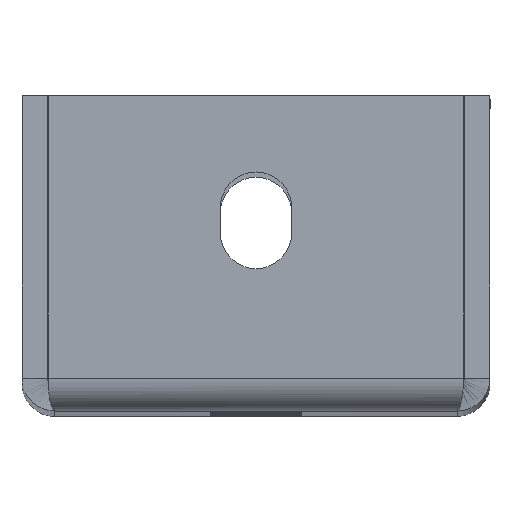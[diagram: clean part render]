
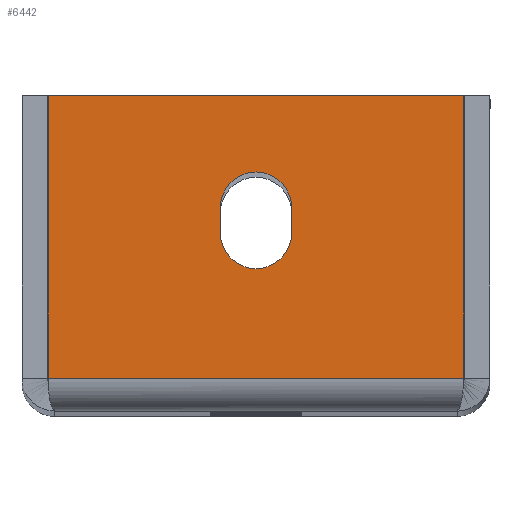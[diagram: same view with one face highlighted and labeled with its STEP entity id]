
A CAD part, top view. The second image highlights one B-rep face of the part: STEP entity #6442.
In plain terms, the highlighted planar face has unit normal (0, 0, 1).
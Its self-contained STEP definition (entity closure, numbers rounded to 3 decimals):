
#63 = DIRECTION ( 'NONE',  ( 0., 1., 0. ) ) ;
#112 = VERTEX_POINT ( 'NONE', #7981 ) ;
#202 = LINE ( 'NONE', #2239, #5104 ) ;
#211 = CARTESIAN_POINT ( 'NONE',  ( 24., 15., 2.5 ) ) ;
#486 = EDGE_CURVE ( 'NONE', #4706, #6631, #6182, .T. ) ;
#520 = DIRECTION ( 'NONE',  ( 0., 0., 1. ) ) ;
#642 = CIRCLE ( 'NONE', #741, 3.5 ) ;
#659 = FACE_OUTER_BOUND ( 'NONE', #5116, .T. ) ;
#741 = AXIS2_PLACEMENT_3D ( 'NONE', #4329, #1246, #1783 ) ;
#862 = VERTEX_POINT ( 'NONE', #7411 ) ;
#868 = CARTESIAN_POINT ( 'NONE',  ( 24., 15., 2.5 ) ) ;
#1213 = CIRCLE ( 'NONE', #7958, 3.5 ) ;
#1246 = DIRECTION ( 'NONE',  ( 0., 0., 1. ) ) ;
#1410 = ORIENTED_EDGE ( 'NONE', *, *, #486, .F. ) ;
#1487 = DIRECTION ( 'NONE',  ( 0., 1., 0. ) ) ;
#1490 = ORIENTED_EDGE ( 'NONE', *, *, #3450, .F. ) ;
#1501 = DIRECTION ( 'NONE',  ( -1., 0., 0. ) ) ;
#1692 = EDGE_CURVE ( 'NONE', #112, #4706, #7184, .T. ) ;
#1783 = DIRECTION ( 'NONE',  ( 1., 0., 0. ) ) ;
#1894 = VERTEX_POINT ( 'NONE', #7540 ) ;
#2239 = CARTESIAN_POINT ( 'NONE',  ( 0., 28.5, 2.5 ) ) ;
#2400 = DIRECTION ( 'NONE',  ( 1., 0., 0. ) ) ;
#2473 = VECTOR ( 'NONE', #4680, 1000. ) ;
#2639 = CARTESIAN_POINT ( 'NONE',  ( 24., 17.5, 2.5 ) ) ;
#2745 = CARTESIAN_POINT ( 'NONE',  ( 0., 0.737, 2.5 ) ) ;
#2925 = EDGE_LOOP ( 'NONE', ( #3460, #3377, #5444, #1490 ) ) ;
#3377 = ORIENTED_EDGE ( 'NONE', *, *, #4554, .F. ) ;
#3450 = EDGE_CURVE ( 'NONE', #3492, #862, #642, .T. ) ;
#3460 = ORIENTED_EDGE ( 'NONE', *, *, #6740, .F. ) ;
#3492 = VERTEX_POINT ( 'NONE', #2639 ) ;
#3516 = EDGE_CURVE ( 'NONE', #112, #4324, #5531, .T. ) ;
#3630 = PLANE ( 'NONE',  #5774 ) ;
#3690 = CARTESIAN_POINT ( 'NONE',  ( 0., 0., 2.5 ) ) ;
#3714 = VECTOR ( 'NONE', #63, 1000. ) ;
#4324 = VERTEX_POINT ( 'NONE', #5357 ) ;
#4329 = CARTESIAN_POINT ( 'NONE',  ( 20.5, 17.5, 2.5 ) ) ;
#4554 = EDGE_CURVE ( 'NONE', #1894, #7207, #1213, .T. ) ;
#4639 = LINE ( 'NONE', #211, #5138 ) ;
#4680 = DIRECTION ( 'NONE',  ( 0., 1., 0. ) ) ;
#4706 = VERTEX_POINT ( 'NONE', #6525 ) ;
#4742 = DIRECTION ( 'NONE',  ( -1., 0., 0. ) ) ;
#4875 = VECTOR ( 'NONE', #1501, 1000. ) ;
#4902 = ORIENTED_EDGE ( 'NONE', *, *, #3516, .T. ) ;
#5066 = DIRECTION ( 'NONE',  ( 0., -1., 0. ) ) ;
#5104 = VECTOR ( 'NONE', #4742, 1000. ) ;
#5116 = EDGE_LOOP ( 'NONE', ( #6093, #4902, #6879, #1410 ) ) ;
#5138 = VECTOR ( 'NONE', #1487, 1000. ) ;
#5321 = CARTESIAN_POINT ( 'NONE',  ( 0.071, 0.737, 2.5 ) ) ;
#5357 = CARTESIAN_POINT ( 'NONE',  ( 40.929, 28.5, 2.5 ) ) ;
#5444 = ORIENTED_EDGE ( 'NONE', *, *, #7536, .F. ) ;
#5531 = LINE ( 'NONE', #6399, #3714 ) ;
#5774 = AXIS2_PLACEMENT_3D ( 'NONE', #3690, #7510, #6214 ) ;
#5781 = LINE ( 'NONE', #8253, #8075 ) ;
#6046 = FACE_BOUND ( 'NONE', #2925, .T. ) ;
#6093 = ORIENTED_EDGE ( 'NONE', *, *, #1692, .F. ) ;
#6182 = LINE ( 'NONE', #5321, #2473 ) ;
#6214 = DIRECTION ( 'NONE',  ( -1., 0., 0. ) ) ;
#6238 = CARTESIAN_POINT ( 'NONE',  ( 20.5, 15., 2.5 ) ) ;
#6399 = CARTESIAN_POINT ( 'NONE',  ( 40.929, 0.737, 2.5 ) ) ;
#6442 = ADVANCED_FACE ( 'NONE', ( #6046, #659 ), #3630, .F. ) ;
#6525 = CARTESIAN_POINT ( 'NONE',  ( 0.071, 0.737, 2.5 ) ) ;
#6631 = VERTEX_POINT ( 'NONE', #7836 ) ;
#6740 = EDGE_CURVE ( 'NONE', #7207, #3492, #4639, .T. ) ;
#6879 = ORIENTED_EDGE ( 'NONE', *, *, #7250, .T. ) ;
#7184 = LINE ( 'NONE', #2745, #4875 ) ;
#7207 = VERTEX_POINT ( 'NONE', #868 ) ;
#7250 = EDGE_CURVE ( 'NONE', #4324, #6631, #202, .T. ) ;
#7411 = CARTESIAN_POINT ( 'NONE',  ( 17., 17.5, 2.5 ) ) ;
#7510 = DIRECTION ( 'NONE',  ( 0., 0., -1. ) ) ;
#7536 = EDGE_CURVE ( 'NONE', #862, #1894, #5781, .T. ) ;
#7540 = CARTESIAN_POINT ( 'NONE',  ( 17., 15., 2.5 ) ) ;
#7836 = CARTESIAN_POINT ( 'NONE',  ( 0.071, 28.5, 2.5 ) ) ;
#7958 = AXIS2_PLACEMENT_3D ( 'NONE', #6238, #520, #2400 ) ;
#7981 = CARTESIAN_POINT ( 'NONE',  ( 40.929, 0.737, 2.5 ) ) ;
#8075 = VECTOR ( 'NONE', #5066, 1000. ) ;
#8253 = CARTESIAN_POINT ( 'NONE',  ( 17., 15., 2.5 ) ) ;
